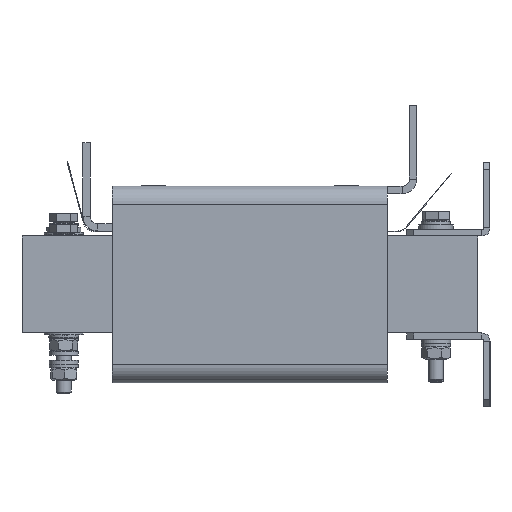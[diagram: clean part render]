
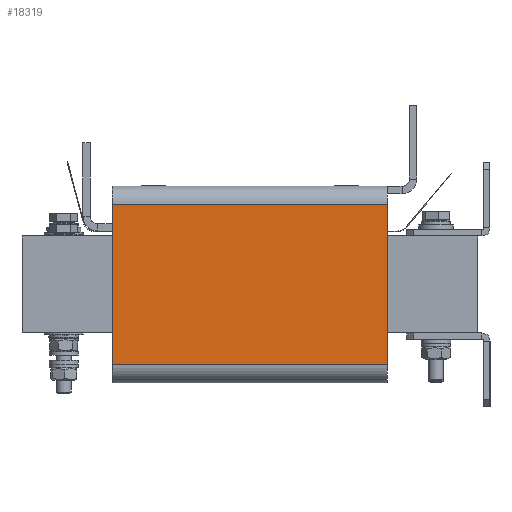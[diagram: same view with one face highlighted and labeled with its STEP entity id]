
A CAD part, left-side view. The second image highlights one B-rep face of the part: STEP entity #18319.
In plain terms, the highlighted planar face has unit normal (-1, 0, 0).
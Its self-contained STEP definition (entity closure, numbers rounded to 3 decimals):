
#1556=LINE('',#28260,#3100);
#1564=LINE('',#28285,#3108);
#1580=LINE('',#28334,#3124);
#1581=LINE('',#28336,#3125);
#3100=VECTOR('',#22990,10.);
#3108=VECTOR('',#23008,10.);
#3124=VECTOR('',#23050,10.);
#3125=VECTOR('',#23053,10.);
#4166=PLANE('',#19669);
#5357=FACE_OUTER_BOUND('',#6595,.T.);
#6595=EDGE_LOOP('',(#14579,#14580,#14581,#14582));
#8590=VERTEX_POINT('',#28257);
#8591=VERTEX_POINT('',#28259);
#8602=VERTEX_POINT('',#28282);
#8603=VERTEX_POINT('',#28284);
#10702=EDGE_CURVE('',#8590,#8591,#1556,.T.);
#10714=EDGE_CURVE('',#8602,#8603,#1564,.T.);
#10740=EDGE_CURVE('',#8603,#8590,#1580,.T.);
#10741=EDGE_CURVE('',#8602,#8591,#1581,.T.);
#14579=ORIENTED_EDGE('',*,*,#10740,.F.);
#14580=ORIENTED_EDGE('',*,*,#10714,.F.);
#14581=ORIENTED_EDGE('',*,*,#10741,.T.);
#14582=ORIENTED_EDGE('',*,*,#10702,.F.);
#18319=ADVANCED_FACE('',(#5357),#4166,.T.);
#19669=AXIS2_PLACEMENT_3D('',#28335,#23051,#23052);
#22990=DIRECTION('',(0.,0.,-1.));
#23008=DIRECTION('',(0.,0.,1.));
#23050=DIRECTION('',(0.,-1.,0.));
#23051=DIRECTION('center_axis',(-1.,0.,0.));
#23052=DIRECTION('ref_axis',(0.,0.,1.));
#23053=DIRECTION('',(0.,-1.,0.));
#28257=CARTESIAN_POINT('',(-112.9,-56.,32.67));
#28259=CARTESIAN_POINT('',(-112.9,-56.,-32.67));
#28260=CARTESIAN_POINT('',(-112.9,-56.,32.67));
#28282=CARTESIAN_POINT('',(-112.9,56.,-32.67));
#28284=CARTESIAN_POINT('',(-112.9,56.,32.67));
#28285=CARTESIAN_POINT('',(-112.9,56.,32.67));
#28334=CARTESIAN_POINT('',(-112.9,0.,32.67));
#28335=CARTESIAN_POINT('Origin',(-112.9,0.,-32.67));
#28336=CARTESIAN_POINT('',(-112.9,0.,-32.67));
